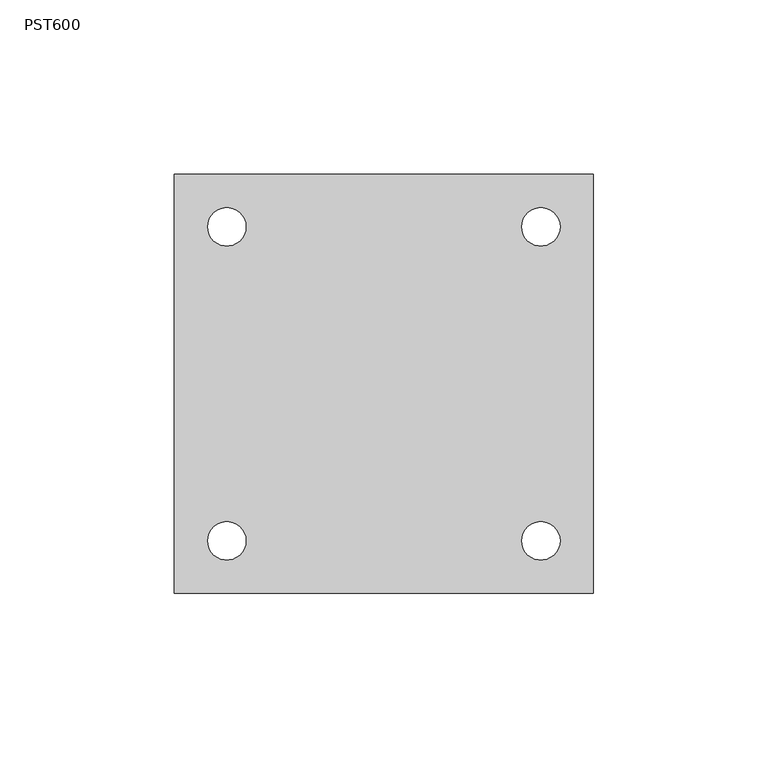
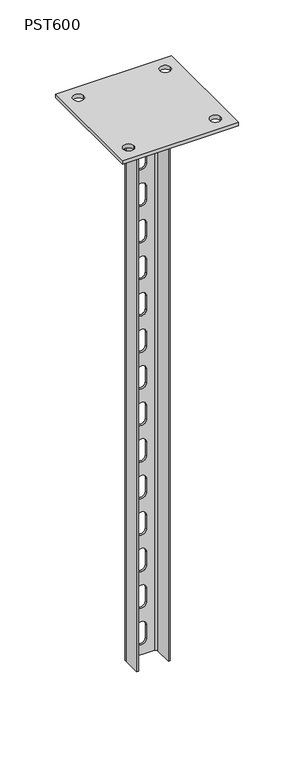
"""IFC4 building model written with IfcOpenShell, lengths in millimetres: proxy geometry, КМ Профиль_Стойка потолочная облегчённая PST : PST600."""

from ifc_helpers import new_model, si_unit, point, frame, frame_2d, origin, place, context, project, spatial, polyline, circle_curve, trimmed, segment, composite_curve, outline, extrude, source, transform, mapped, element, save
from ifc_brep_helpers import plane_surface, cylinder_surface, revolved_surface, advanced_brep


def pst600_b876f94e(model_context):
    return source(origin(), model_context, "Body", "SolidModel", [
        advanced_brep(
        [(17.5, -11.5, -4.0), (17.5, 7.5, -4.0), (13.5, 11.5, -4.0), (-13.5, 11.5, -4.0), (-17.5, 7.5, -4.0), (-17.5, -11.5, -4.0), (-15.5, -11.5, -4.0), (-15.5, 7.5, -4.0), (-13.5, 9.5, -4.0), (13.5, 9.5, -4.0), (15.5, 7.5, -4.0), (15.5, -11.5, -4.0), (17.5, 7.5, -604.0), (17.5, -11.5, -604.0), (15.5, -11.5, -604.0), (15.5, 7.5, -604.0), (13.5, 9.5, -604.0), (-13.5, 9.5, -604.0), (-15.5, 7.5, -604.0), (-15.5, -11.5, -604.0), (-17.5, -11.5, -604.0), (-17.5, 7.5, -604.0), (-13.5, 11.5, -604.0), (13.5, 11.5, -604.0), (-5.0, 11.5, -53.0), (-5.0, 11.5, -68.0), (5.0, 11.5, -68.0), (5.0, 11.5, -53.0), (-5.0, 11.5, -93.0), (-5.0, 11.5, -108.0), (5.0, 11.5, -108.0), (5.0, 11.5, -93.0), (-5.0, 11.5, -133.0), (-5.0, 11.5, -148.0), (5.0, 11.5, -148.0), (5.0, 11.5, -133.0), (-5.0, 11.5, -173.0), (-5.0, 11.5, -188.0), (5.0, 11.5, -188.0), (5.0, 11.5, -173.0), (-5.0, 11.5, -213.0), (-5.0, 11.5, -228.0), (5.0, 11.5, -228.0), (5.0, 11.5, -213.0), (-5.0, 11.5, -13.0), (-5.0, 11.5, -28.0), (5.0, 11.5, -28.0), (5.0, 11.5, -13.0), (-5.0, 11.5, -253.0), (-5.0, 11.5, -268.0), (5.0, 11.5, -268.0), (5.0, 11.5, -253.0), (-5.0, 11.5, -293.0), (-5.0, 11.5, -308.0), (5.0, 11.5, -308.0), (5.0, 11.5, -293.0), (-5.0, 11.5, -333.0), (-5.0, 11.5, -348.0), (5.0, 11.5, -348.0), (5.0, 11.5, -333.0), (-5.0, 11.5, -373.0), (-5.0, 11.5, -388.0), (5.0, 11.5, -388.0), (5.0, 11.5, -373.0), (-5.0, 11.5, -413.0), (-5.0, 11.5, -428.0), (5.0, 11.5, -428.0), (5.0, 11.5, -413.0), (-5.0, 11.5, -453.0), (-5.0, 11.5, -468.0), (5.0, 11.5, -468.0), (5.0, 11.5, -453.0), (-5.0, 11.5, -493.0), (-5.0, 11.5, -508.0), (5.0, 11.5, -508.0), (5.0, 11.5, -493.0), (-5.0, 11.5, -533.0), (-5.0, 11.5, -548.0), (5.0, 11.5, -548.0), (5.0, 11.5, -533.0), (-5.0, 11.5, -573.0), (-5.0, 11.5, -588.0), (5.0, 11.5, -588.0), (5.0, 11.5, -573.0), (-5.0, 9.5, -68.0), (-5.0, 9.5, -53.0), (5.0, 9.5, -53.0), (5.0, 9.5, -68.0), (-5.0, 9.5, -108.0), (-5.0, 9.5, -93.0), (5.0, 9.5, -93.0), (5.0, 9.5, -108.0), (-5.0, 9.5, -148.0), (-5.0, 9.5, -133.0), (5.0, 9.5, -133.0), (5.0, 9.5, -148.0), (-5.0, 9.5, -188.0), (-5.0, 9.5, -173.0), (5.0, 9.5, -173.0), (5.0, 9.5, -188.0), (-5.0, 9.5, -228.0), (-5.0, 9.5, -213.0), (5.0, 9.5, -213.0), (5.0, 9.5, -228.0), (-5.0, 9.5, -28.0), (-5.0, 9.5, -13.0), (5.0, 9.5, -13.0), (5.0, 9.5, -28.0), (-5.0, 9.5, -268.0), (-5.0, 9.5, -253.0), (5.0, 9.5, -253.0), (5.0, 9.5, -268.0), (-5.0, 9.5, -308.0), (-5.0, 9.5, -293.0), (5.0, 9.5, -293.0), (5.0, 9.5, -308.0), (-5.0, 9.5, -348.0), (-5.0, 9.5, -333.0), (5.0, 9.5, -333.0), (5.0, 9.5, -348.0), (-5.0, 9.5, -388.0), (-5.0, 9.5, -373.0), (5.0, 9.5, -373.0), (5.0, 9.5, -388.0), (-5.0, 9.5, -428.0), (-5.0, 9.5, -413.0), (5.0, 9.5, -413.0), (5.0, 9.5, -428.0), (-5.0, 9.5, -468.0), (-5.0, 9.5, -453.0), (5.0, 9.5, -453.0), (5.0, 9.5, -468.0), (-5.0, 9.5, -508.0), (-5.0, 9.5, -493.0), (5.0, 9.5, -493.0), (5.0, 9.5, -508.0), (-5.0, 9.5, -548.0), (-5.0, 9.5, -533.0), (5.0, 9.5, -533.0), (5.0, 9.5, -548.0), (-5.0, 9.5, -588.0), (-5.0, 9.5, -573.0), (5.0, 9.5, -573.0), (5.0, 9.5, -588.0)],
        [
            (0, 1),
            (1, 2, circle_curve(frame((13.5, 7.5, -4.0), z_axis=(0.0, 0.0, 1.0), x_axis=(1.0, 0.0, 0.0)), 4.0)),
            (2, 3),
            (3, 4, circle_curve(frame((-13.5, 7.5, -4.0), z_axis=(0.0, 0.0, 1.0), x_axis=(1.0, 0.0, 0.0)), 4.0)),
            (4, 5),
            (5, 6),
            (6, 7),
            (7, 8, circle_curve(frame((-13.5, 7.5, -4.0), z_axis=(0.0, 0.0, -1.0), x_axis=(1.0, 0.0, 0.0)), 2.0)),
            (8, 9),
            (9, 10, circle_curve(frame((13.5, 7.5, -4.0), z_axis=(0.0, 0.0, -1.0), x_axis=(1.0, 0.0, 0.0)), 2.0)),
            (10, 11),
            (11, 0),
            (12, 13),
            (13, 14),
            (14, 15),
            (15, 16, circle_curve(frame((13.5, 7.5, -604.0), z_axis=(0.0, 0.0, 1.0), x_axis=(1.0, 0.0, 0.0)), 2.0)),
            (16, 17),
            (17, 18, circle_curve(frame((-13.5, 7.5, -604.0), z_axis=(0.0, 0.0, 1.0), x_axis=(1.0, 0.0, 0.0)), 2.0)),
            (18, 19),
            (19, 20),
            (20, 21),
            (21, 22, circle_curve(frame((-13.5, 7.5, -604.0), z_axis=(0.0, 0.0, -1.0), x_axis=(1.0, 0.0, 0.0)), 4.0)),
            (22, 23),
            (23, 12, circle_curve(frame((13.5, 7.5, -604.0), z_axis=(0.0, 0.0, -1.0), x_axis=(1.0, 0.0, 0.0)), 4.0)),
            (0, 13),
            (12, 1),
            (23, 2),
            (22, 3),
            (24, 25),
            (25, 26, circle_curve(frame((0.0, 11.5, -68.0), z_axis=(0.0, -1.0, 0.0), x_axis=(0.0, 0.0, -1.0)), 5.0)),
            (26, 27),
            (27, 24, circle_curve(frame((0.0, 11.5, -53.0), z_axis=(0.0, -1.0, 0.0), x_axis=(0.0, 0.0, -1.0)), 5.0)),
            (28, 29),
            (29, 30, circle_curve(frame((0.0, 11.5, -108.0), z_axis=(0.0, -1.0, 0.0), x_axis=(0.0, 0.0, -1.0)), 5.0)),
            (30, 31),
            (31, 28, circle_curve(frame((0.0, 11.5, -93.0), z_axis=(0.0, -1.0, 0.0), x_axis=(0.0, 0.0, -1.0)), 5.0)),
            (32, 33),
            (33, 34, circle_curve(frame((0.0, 11.5, -148.0), z_axis=(0.0, -1.0, 0.0), x_axis=(0.0, 0.0, -1.0)), 5.0)),
            (34, 35),
            (35, 32, circle_curve(frame((0.0, 11.5, -133.0), z_axis=(0.0, -1.0, 0.0), x_axis=(0.0, 0.0, -1.0)), 5.0)),
            (36, 37),
            (37, 38, circle_curve(frame((0.0, 11.5, -188.0), z_axis=(0.0, -1.0, 0.0), x_axis=(0.0, 0.0, -1.0)), 5.0)),
            (38, 39),
            (39, 36, circle_curve(frame((0.0, 11.5, -173.0), z_axis=(0.0, -1.0, 0.0), x_axis=(0.0, 0.0, -1.0)), 5.0)),
            (40, 41),
            (41, 42, circle_curve(frame((0.0, 11.5, -228.0), z_axis=(0.0, -1.0, 0.0), x_axis=(0.0, 0.0, -1.0)), 5.0)),
            (42, 43),
            (43, 40, circle_curve(frame((0.0, 11.5, -213.0), z_axis=(0.0, -1.0, 0.0), x_axis=(0.0, 0.0, -1.0)), 5.0)),
            (44, 45),
            (45, 46, circle_curve(frame((0.0, 11.5, -28.0), z_axis=(0.0, -1.0, 0.0), x_axis=(0.0, 0.0, -1.0)), 5.0)),
            (46, 47),
            (47, 44, circle_curve(frame((0.0, 11.5, -13.0), z_axis=(0.0, -1.0, 0.0), x_axis=(0.0, 0.0, -1.0)), 5.0)),
            (48, 49),
            (49, 50, circle_curve(frame((0.0, 11.5, -268.0), z_axis=(0.0, -1.0, 0.0), x_axis=(0.0, 0.0, -1.0)), 5.0)),
            (50, 51),
            (51, 48, circle_curve(frame((0.0, 11.5, -253.0), z_axis=(0.0, -1.0, 0.0), x_axis=(0.0, 0.0, -1.0)), 5.0)),
            (52, 53),
            (53, 54, circle_curve(frame((0.0, 11.5, -308.0), z_axis=(0.0, -1.0, 0.0), x_axis=(0.0, 0.0, -1.0)), 5.0)),
            (54, 55),
            (55, 52, circle_curve(frame((0.0, 11.5, -293.0), z_axis=(0.0, -1.0, 0.0), x_axis=(0.0, 0.0, -1.0)), 5.0)),
            (56, 57),
            (57, 58, circle_curve(frame((0.0, 11.5, -348.0), z_axis=(0.0, -1.0, 0.0), x_axis=(0.0, 0.0, -1.0)), 5.0)),
            (58, 59),
            (59, 56, circle_curve(frame((0.0, 11.5, -333.0), z_axis=(0.0, -1.0, 0.0), x_axis=(0.0, 0.0, -1.0)), 5.0)),
            (60, 61),
            (61, 62, circle_curve(frame((0.0, 11.5, -388.0), z_axis=(0.0, -1.0, 0.0), x_axis=(0.0, 0.0, -1.0)), 5.0)),
            (62, 63),
            (63, 60, circle_curve(frame((0.0, 11.5, -373.0), z_axis=(0.0, -1.0, 0.0), x_axis=(0.0, 0.0, -1.0)), 5.0)),
            (64, 65),
            (65, 66, circle_curve(frame((0.0, 11.5, -428.0), z_axis=(0.0, -1.0, 0.0), x_axis=(0.0, 0.0, -1.0)), 5.0)),
            (66, 67),
            (67, 64, circle_curve(frame((0.0, 11.5, -413.0), z_axis=(0.0, -1.0, 0.0), x_axis=(0.0, 0.0, -1.0)), 5.0)),
            (68, 69),
            (69, 70, circle_curve(frame((0.0, 11.5, -468.0), z_axis=(0.0, -1.0, 0.0), x_axis=(0.0, 0.0, -1.0)), 5.0)),
            (70, 71),
            (71, 68, circle_curve(frame((0.0, 11.5, -453.0), z_axis=(0.0, -1.0, 0.0), x_axis=(0.0, 0.0, -1.0)), 5.0)),
            (72, 73),
            (73, 74, circle_curve(frame((0.0, 11.5, -508.0), z_axis=(0.0, -1.0, 0.0), x_axis=(0.0, 0.0, -1.0)), 5.0)),
            (74, 75),
            (75, 72, circle_curve(frame((0.0, 11.5, -493.0), z_axis=(0.0, -1.0, 0.0), x_axis=(0.0, 0.0, -1.0)), 5.0)),
            (76, 77),
            (77, 78, circle_curve(frame((0.0, 11.5, -548.0), z_axis=(0.0, -1.0, 0.0), x_axis=(0.0, 0.0, -1.0)), 5.0)),
            (78, 79),
            (79, 76, circle_curve(frame((0.0, 11.5, -533.0), z_axis=(0.0, -1.0, 0.0), x_axis=(0.0, 0.0, -1.0)), 5.0)),
            (80, 81),
            (81, 82, circle_curve(frame((0.0, 11.5, -588.0), z_axis=(0.0, -1.0, 0.0), x_axis=(0.0, 0.0, -1.0)), 5.0)),
            (82, 83),
            (83, 80, circle_curve(frame((0.0, 11.5, -573.0), z_axis=(0.0, -1.0, 0.0), x_axis=(0.0, 0.0, -1.0)), 5.0)),
            (21, 4),
            (20, 5),
            (19, 6),
            (18, 7),
            (17, 8),
            (16, 9),
            (84, 85),
            (85, 86, circle_curve(frame((0.0, 9.5, -53.0), z_axis=(0.0, 1.0, 0.0), x_axis=(0.0, 0.0, -1.0)), 5.0)),
            (86, 87),
            (87, 84, circle_curve(frame((0.0, 9.5, -68.0), z_axis=(0.0, 1.0, 0.0), x_axis=(0.0, 0.0, -1.0)), 5.0)),
            (88, 89),
            (89, 90, circle_curve(frame((0.0, 9.5, -93.0), z_axis=(0.0, 1.0, 0.0), x_axis=(0.0, 0.0, -1.0)), 5.0)),
            (90, 91),
            (91, 88, circle_curve(frame((0.0, 9.5, -108.0), z_axis=(0.0, 1.0, 0.0), x_axis=(0.0, 0.0, -1.0)), 5.0)),
            (92, 93),
            (93, 94, circle_curve(frame((0.0, 9.5, -133.0), z_axis=(0.0, 1.0, 0.0), x_axis=(0.0, 0.0, -1.0)), 5.0)),
            (94, 95),
            (95, 92, circle_curve(frame((0.0, 9.5, -148.0), z_axis=(0.0, 1.0, 0.0), x_axis=(0.0, 0.0, -1.0)), 5.0)),
            (96, 97),
            (97, 98, circle_curve(frame((0.0, 9.5, -173.0), z_axis=(0.0, 1.0, 0.0), x_axis=(0.0, 0.0, -1.0)), 5.0)),
            (98, 99),
            (99, 96, circle_curve(frame((0.0, 9.5, -188.0), z_axis=(0.0, 1.0, 0.0), x_axis=(0.0, 0.0, -1.0)), 5.0)),
            (100, 101),
            (101, 102, circle_curve(frame((0.0, 9.5, -213.0), z_axis=(0.0, 1.0, 0.0), x_axis=(0.0, 0.0, -1.0)), 5.0)),
            (102, 103),
            (103, 100, circle_curve(frame((0.0, 9.5, -228.0), z_axis=(0.0, 1.0, 0.0), x_axis=(0.0, 0.0, -1.0)), 5.0)),
            (104, 105),
            (105, 106, circle_curve(frame((0.0, 9.5, -13.0), z_axis=(0.0, 1.0, 0.0), x_axis=(0.0, 0.0, -1.0)), 5.0)),
            (106, 107),
            (107, 104, circle_curve(frame((0.0, 9.5, -28.0), z_axis=(0.0, 1.0, 0.0), x_axis=(0.0, 0.0, -1.0)), 5.0)),
            (108, 109),
            (109, 110, circle_curve(frame((0.0, 9.5, -253.0), z_axis=(0.0, 1.0, 0.0), x_axis=(0.0, 0.0, -1.0)), 5.0)),
            (110, 111),
            (111, 108, circle_curve(frame((0.0, 9.5, -268.0), z_axis=(0.0, 1.0, 0.0), x_axis=(0.0, 0.0, -1.0)), 5.0)),
            (112, 113),
            (113, 114, circle_curve(frame((0.0, 9.5, -293.0), z_axis=(0.0, 1.0, 0.0), x_axis=(0.0, 0.0, -1.0)), 5.0)),
            (114, 115),
            (115, 112, circle_curve(frame((0.0, 9.5, -308.0), z_axis=(0.0, 1.0, 0.0), x_axis=(0.0, 0.0, -1.0)), 5.0)),
            (116, 117),
            (117, 118, circle_curve(frame((0.0, 9.5, -333.0), z_axis=(0.0, 1.0, 0.0), x_axis=(0.0, 0.0, -1.0)), 5.0)),
            (118, 119),
            (119, 116, circle_curve(frame((0.0, 9.5, -348.0), z_axis=(0.0, 1.0, 0.0), x_axis=(0.0, 0.0, -1.0)), 5.0)),
            (120, 121),
            (121, 122, circle_curve(frame((0.0, 9.5, -373.0), z_axis=(0.0, 1.0, 0.0), x_axis=(0.0, 0.0, -1.0)), 5.0)),
            (122, 123),
            (123, 120, circle_curve(frame((0.0, 9.5, -388.0), z_axis=(0.0, 1.0, 0.0), x_axis=(0.0, 0.0, -1.0)), 5.0)),
            (124, 125),
            (125, 126, circle_curve(frame((0.0, 9.5, -413.0), z_axis=(0.0, 1.0, 0.0), x_axis=(0.0, 0.0, -1.0)), 5.0)),
            (126, 127),
            (127, 124, circle_curve(frame((0.0, 9.5, -428.0), z_axis=(0.0, 1.0, 0.0), x_axis=(0.0, 0.0, -1.0)), 5.0)),
            (128, 129),
            (129, 130, circle_curve(frame((0.0, 9.5, -453.0), z_axis=(0.0, 1.0, 0.0), x_axis=(0.0, 0.0, -1.0)), 5.0)),
            (130, 131),
            (131, 128, circle_curve(frame((0.0, 9.5, -468.0), z_axis=(0.0, 1.0, 0.0), x_axis=(0.0, 0.0, -1.0)), 5.0)),
            (132, 133),
            (133, 134, circle_curve(frame((0.0, 9.5, -493.0), z_axis=(0.0, 1.0, 0.0), x_axis=(0.0, 0.0, -1.0)), 5.0)),
            (134, 135),
            (135, 132, circle_curve(frame((0.0, 9.5, -508.0), z_axis=(0.0, 1.0, 0.0), x_axis=(0.0, 0.0, -1.0)), 5.0)),
            (136, 137),
            (137, 138, circle_curve(frame((0.0, 9.5, -533.0), z_axis=(0.0, 1.0, 0.0), x_axis=(0.0, 0.0, -1.0)), 5.0)),
            (138, 139),
            (139, 136, circle_curve(frame((0.0, 9.5, -548.0), z_axis=(0.0, 1.0, 0.0), x_axis=(0.0, 0.0, -1.0)), 5.0)),
            (140, 141),
            (141, 142, circle_curve(frame((0.0, 9.5, -573.0), z_axis=(0.0, 1.0, 0.0), x_axis=(0.0, 0.0, -1.0)), 5.0)),
            (142, 143),
            (143, 140, circle_curve(frame((0.0, 9.5, -588.0), z_axis=(0.0, 1.0, 0.0), x_axis=(0.0, 0.0, -1.0)), 5.0)),
            (15, 10),
            (14, 11),
            (24, 85),
            (84, 25),
            (27, 86),
            (26, 87),
            (28, 89),
            (88, 29),
            (31, 90),
            (30, 91),
            (32, 93),
            (92, 33),
            (35, 94),
            (34, 95),
            (36, 97),
            (96, 37),
            (39, 98),
            (38, 99),
            (40, 101),
            (100, 41),
            (43, 102),
            (42, 103),
            (44, 105),
            (104, 45),
            (47, 106),
            (46, 107),
            (48, 109),
            (108, 49),
            (51, 110),
            (50, 111),
            (52, 113),
            (112, 53),
            (55, 114),
            (54, 115),
            (56, 117),
            (116, 57),
            (59, 118),
            (58, 119),
            (60, 121),
            (120, 61),
            (63, 122),
            (62, 123),
            (64, 125),
            (124, 65),
            (67, 126),
            (66, 127),
            (68, 129),
            (128, 69),
            (71, 130),
            (70, 131),
            (72, 133),
            (132, 73),
            (75, 134),
            (74, 135),
            (76, 137),
            (136, 77),
            (79, 138),
            (78, 139),
            (80, 141),
            (140, 81),
            (83, 142),
            (82, 143),
        ],
        [
            plane_surface(frame((17.5, 70.8587358, -4.0), z_axis=(0.0, 0.0, 1.0), x_axis=(0.0, 1.0, 0.0))),
            plane_surface(frame((17.5, 70.8587358, -604.0), z_axis=(0.0, 0.0, -1.0), x_axis=(0.0, -1.0, 0.0))),
            plane_surface(frame((17.5, -11.5, -4.0), z_axis=(1.0, 0.0, 0.0), x_axis=(0.0, 0.0, -1.0))),
            cylinder_surface(frame((13.5, 7.5, -604.0), z_axis=(0.0, 0.0, 1.0), x_axis=(1.0, 0.0, 0.0)), 4.0),
            plane_surface(frame((13.5, 11.5, -4.0), z_axis=(0.0, 1.0, 0.0), x_axis=(0.0, 0.0, -1.0))),
            cylinder_surface(frame((-13.5, 7.5, -604.0), z_axis=(0.0, 0.0, 1.0), x_axis=(1.0, 0.0, 0.0)), 4.0),
            plane_surface(frame((-17.5, 7.5, -4.0), z_axis=(-1.0, 0.0, 0.0), x_axis=(0.0, 0.0, -1.0))),
            plane_surface(frame((-17.5, -11.5, -4.0), z_axis=(0.0, -1.0, 0.0), x_axis=(0.0, 0.0, -1.0))),
            plane_surface(frame((-15.5, -11.5, -4.0), z_axis=(1.0, 0.0, 0.0), x_axis=(0.0, 0.0, -1.0))),
            revolved_surface(polyline([(-11.5, 7.5, -604.0), (-11.5, 7.5, -4.0)]), (-13.5, 7.5, -604.0), (0.0, 0.0, -1.0)),
            plane_surface(frame((-13.5, 9.5, -4.0), z_axis=(0.0, -1.0, 0.0), x_axis=(0.0, 0.0, -1.0))),
            revolved_surface(polyline([(15.5, 7.5, -604.0), (15.5, 7.5, -4.0)]), (13.5, 7.5, -604.0), (0.0, 0.0, -1.0)),
            plane_surface(frame((15.5, 7.5, -4.0), z_axis=(-1.0, 0.0, 0.0), x_axis=(0.0, 0.0, -1.0))),
            plane_surface(frame((15.5, -11.5, -4.0), z_axis=(0.0, -1.0, 0.0), x_axis=(0.0, 0.0, -1.0))),
            plane_surface(frame((-5.0, 11.5, -68.0), z_axis=(1.0, 0.0, 0.0), x_axis=(0.0, -1.0, 0.0))),
            revolved_surface(polyline([(0.0, 11.5, -58.0), (0.0, 9.5, -58.0)]), (0.0, 9.5, -53.0), (0.0, 1.0, 0.0)),
            plane_surface(frame((5.0, 11.5, -53.0), z_axis=(-1.0, 0.0, 0.0), x_axis=(0.0, -1.0, 0.0))),
            revolved_surface(polyline([(0.0, 11.5, -73.0), (0.0, 9.5, -73.0)]), (0.0, 9.5, -68.0), (0.0, 1.0, 0.0)),
            plane_surface(frame((-5.0, 11.5, -108.0), z_axis=(1.0, 0.0, 0.0), x_axis=(0.0, -1.0, 0.0))),
            revolved_surface(polyline([(0.0, 11.5, -98.0), (0.0, 9.5, -98.0)]), (0.0, 9.5, -93.0), (0.0, 1.0, 0.0)),
            plane_surface(frame((5.0, 11.5, -93.0), z_axis=(-1.0, 0.0, 0.0), x_axis=(0.0, -1.0, 0.0))),
            revolved_surface(polyline([(0.0, 11.5, -113.0), (0.0, 9.5, -113.0)]), (0.0, 9.5, -108.0), (0.0, 1.0, 0.0)),
            plane_surface(frame((-5.0, 11.5, -148.0), z_axis=(1.0, 0.0, 0.0), x_axis=(0.0, -1.0, 0.0))),
            revolved_surface(polyline([(0.0, 11.5, -138.0), (0.0, 9.5, -138.0)]), (0.0, 9.5, -133.0), (0.0, 1.0, 0.0)),
            plane_surface(frame((5.0, 11.5, -133.0), z_axis=(-1.0, 0.0, 0.0), x_axis=(0.0, -1.0, 0.0))),
            revolved_surface(polyline([(0.0, 11.5, -153.0), (0.0, 9.5, -153.0)]), (0.0, 9.5, -148.0), (0.0, 1.0, 0.0)),
            plane_surface(frame((-5.0, 11.5, -188.0), z_axis=(1.0, 0.0, 0.0), x_axis=(0.0, -1.0, 0.0))),
            revolved_surface(polyline([(0.0, 11.5, -178.0), (0.0, 9.5, -178.0)]), (0.0, 9.5, -173.0), (0.0, 1.0, 0.0)),
            plane_surface(frame((5.0, 11.5, -173.0), z_axis=(-1.0, 0.0, 0.0), x_axis=(0.0, -1.0, 0.0))),
            revolved_surface(polyline([(0.0, 11.5, -193.0), (0.0, 9.5, -193.0)]), (0.0, 9.5, -188.0), (0.0, 1.0, 0.0)),
            plane_surface(frame((-5.0, 11.5, -228.0), z_axis=(1.0, 0.0, 0.0), x_axis=(0.0, -1.0, 0.0))),
            revolved_surface(polyline([(0.0, 11.5, -218.0), (0.0, 9.5, -218.0)]), (0.0, 9.5, -213.0), (0.0, 1.0, 0.0)),
            plane_surface(frame((5.0, 11.5, -213.0), z_axis=(-1.0, 0.0, 0.0), x_axis=(0.0, -1.0, 0.0))),
            revolved_surface(polyline([(0.0, 11.5, -233.0), (0.0, 9.5, -233.0)]), (0.0, 9.5, -228.0), (0.0, 1.0, 0.0)),
            plane_surface(frame((-5.0, 11.5, -28.0), z_axis=(1.0, 0.0, 0.0), x_axis=(0.0, -1.0, 0.0))),
            revolved_surface(polyline([(0.0, 11.5, -18.0), (0.0, 9.5, -18.0)]), (0.0, 9.5, -13.0), (0.0, 1.0, 0.0)),
            plane_surface(frame((5.0, 11.5, -13.0), z_axis=(-1.0, 0.0, 0.0), x_axis=(0.0, -1.0, 0.0))),
            revolved_surface(polyline([(0.0, 11.5, -33.0), (0.0, 9.5, -33.0)]), (0.0, 9.5, -28.0), (0.0, 1.0, 0.0)),
            plane_surface(frame((-5.0, 11.5, -268.0), z_axis=(1.0, 0.0, 0.0), x_axis=(0.0, -1.0, 0.0))),
            revolved_surface(polyline([(0.0, 11.5, -258.0), (0.0, 9.5, -258.0)]), (0.0, 9.5, -253.0), (0.0, 1.0, 0.0)),
            plane_surface(frame((5.0, 11.5, -253.0), z_axis=(-1.0, 0.0, 0.0), x_axis=(0.0, -1.0, 0.0))),
            revolved_surface(polyline([(0.0, 11.5, -273.0), (0.0, 9.5, -273.0)]), (0.0, 9.5, -268.0), (0.0, 1.0, 0.0)),
            plane_surface(frame((-5.0, 11.5, -308.0), z_axis=(1.0, 0.0, 0.0), x_axis=(0.0, -1.0, 0.0))),
            revolved_surface(polyline([(0.0, 11.5, -298.0), (0.0, 9.5, -298.0)]), (0.0, 9.5, -293.0), (0.0, 1.0, 0.0)),
            plane_surface(frame((5.0, 11.5, -293.0), z_axis=(-1.0, 0.0, 0.0), x_axis=(0.0, -1.0, 0.0))),
            revolved_surface(polyline([(0.0, 11.5, -313.0), (0.0, 9.5, -313.0)]), (0.0, 9.5, -308.0), (0.0, 1.0, 0.0)),
            plane_surface(frame((-5.0, 11.5, -348.0), z_axis=(1.0, 0.0, 0.0), x_axis=(0.0, -1.0, 0.0))),
            revolved_surface(polyline([(0.0, 11.5, -338.0), (0.0, 9.5, -338.0)]), (0.0, 9.5, -333.0), (0.0, 1.0, 0.0)),
            plane_surface(frame((5.0, 11.5, -333.0), z_axis=(-1.0, 0.0, 0.0), x_axis=(0.0, -1.0, 0.0))),
            revolved_surface(polyline([(0.0, 11.5, -353.0), (0.0, 9.5, -353.0)]), (0.0, 9.5, -348.0), (0.0, 1.0, 0.0)),
            plane_surface(frame((-5.0, 11.5, -388.0), z_axis=(1.0, 0.0, 0.0), x_axis=(0.0, -1.0, 0.0))),
            revolved_surface(polyline([(0.0, 11.5, -378.0), (0.0, 9.5, -378.0)]), (0.0, 9.5, -373.0), (0.0, 1.0, 0.0)),
            plane_surface(frame((5.0, 11.5, -373.0), z_axis=(-1.0, 0.0, 0.0), x_axis=(0.0, -1.0, 0.0))),
            revolved_surface(polyline([(0.0, 11.5, -393.0), (0.0, 9.5, -393.0)]), (0.0, 9.5, -388.0), (0.0, 1.0, 0.0)),
            plane_surface(frame((-5.0, 11.5, -428.0), z_axis=(1.0, 0.0, 0.0), x_axis=(0.0, -1.0, 0.0))),
            revolved_surface(polyline([(0.0, 11.5, -418.0), (0.0, 9.5, -418.0)]), (0.0, 9.5, -413.0), (0.0, 1.0, 0.0)),
            plane_surface(frame((5.0, 11.5, -413.0), z_axis=(-1.0, 0.0, 0.0), x_axis=(0.0, -1.0, 0.0))),
            revolved_surface(polyline([(0.0, 11.5, -433.0), (0.0, 9.5, -433.0)]), (0.0, 9.5, -428.0), (0.0, 1.0, 0.0)),
            plane_surface(frame((-5.0, 11.5, -468.0), z_axis=(1.0, 0.0, 0.0), x_axis=(0.0, -1.0, 0.0))),
            revolved_surface(polyline([(0.0, 11.5, -458.0), (0.0, 9.5, -458.0)]), (0.0, 9.5, -453.0), (0.0, 1.0, 0.0)),
            plane_surface(frame((5.0, 11.5, -453.0), z_axis=(-1.0, 0.0, 0.0), x_axis=(0.0, -1.0, 0.0))),
            revolved_surface(polyline([(0.0, 11.5, -473.0), (0.0, 9.5, -473.0)]), (0.0, 9.5, -468.0), (0.0, 1.0, 0.0)),
            plane_surface(frame((-5.0, 11.5, -508.0), z_axis=(1.0, 0.0, 0.0), x_axis=(0.0, -1.0, 0.0))),
            revolved_surface(polyline([(0.0, 11.5, -498.0), (0.0, 9.5, -498.0)]), (0.0, 9.5, -493.0), (0.0, 1.0, 0.0)),
            plane_surface(frame((5.0, 11.5, -493.0), z_axis=(-1.0, 0.0, 0.0), x_axis=(0.0, -1.0, 0.0))),
            revolved_surface(polyline([(0.0, 11.5, -513.0), (0.0, 9.5, -513.0)]), (0.0, 9.5, -508.0), (0.0, 1.0, 0.0)),
            plane_surface(frame((-5.0, 11.5, -548.0), z_axis=(1.0, 0.0, 0.0), x_axis=(0.0, -1.0, 0.0))),
            revolved_surface(polyline([(0.0, 11.5, -538.0), (0.0, 9.5, -538.0)]), (0.0, 9.5, -533.0), (0.0, 1.0, 0.0)),
            plane_surface(frame((5.0, 11.5, -533.0), z_axis=(-1.0, 0.0, 0.0), x_axis=(0.0, -1.0, 0.0))),
            revolved_surface(polyline([(0.0, 11.5, -553.0), (0.0, 9.5, -553.0)]), (0.0, 9.5, -548.0), (0.0, 1.0, 0.0)),
            plane_surface(frame((-5.0, 11.5, -588.0), z_axis=(1.0, 0.0, 0.0), x_axis=(0.0, -1.0, 0.0))),
            revolved_surface(polyline([(0.0, 11.5, -578.0), (0.0, 9.5, -578.0)]), (0.0, 9.5, -573.0), (0.0, 1.0, 0.0)),
            plane_surface(frame((5.0, 11.5, -573.0), z_axis=(-1.0, 0.0, 0.0), x_axis=(0.0, -1.0, 0.0))),
            revolved_surface(polyline([(0.0, 11.5, -593.0), (0.0, 9.5, -593.0)]), (0.0, 9.5, -588.0), (0.0, 1.0, 0.0)),
        ],
        [
            (0, [[1, 2, 3, 4, 5, 6, 7, 8, 9, 10, 11, 12]]),
            (1, [[13, 14, 15, 16, 17, 18, 19, 20, 21, 22, 23, 24]]),
            (2, [[-1, 25, -13, 26]]),
            (3, [[-2, -26, -24, 27]]),
            (4, [[-3, -27, -23, 28], [29, 30, 31, 32], [33, 34, 35, 36], [37, 38, 39, 40], [41, 42, 43, 44], [45, 46, 47, 48], [49, 50, 51, 52], [53, 54, 55, 56], [57, 58, 59, 60], [61, 62, 63, 64], [65, 66, 67, 68], [69, 70, 71, 72], [73, 74, 75, 76], [77, 78, 79, 80], [81, 82, 83, 84], [85, 86, 87, 88]]),
            (5, [[-4, -28, -22, 89]]),
            (6, [[-5, -89, -21, 90]]),
            (7, [[-6, -90, -20, 91]]),
            (8, [[-7, -91, -19, 92]]),
            (9, [[-8, -92, -18, 93]]),
            (10, [[-9, -93, -17, 94], [95, 96, 97, 98], [99, 100, 101, 102], [103, 104, 105, 106], [107, 108, 109, 110], [111, 112, 113, 114], [115, 116, 117, 118], [119, 120, 121, 122], [123, 124, 125, 126], [127, 128, 129, 130], [131, 132, 133, 134], [135, 136, 137, 138], [139, 140, 141, 142], [143, 144, 145, 146], [147, 148, 149, 150], [151, 152, 153, 154]]),
            (11, [[-10, -94, -16, 155]]),
            (12, [[-11, -155, -15, 156]]),
            (13, [[-12, -156, -14, -25]]),
            (14, [[157, -95, 158, -29]]),
            (15, [[-157, -32, 159, -96]]),
            (16, [[-159, -31, 160, -97]]),
            (17, [[-158, -98, -160, -30]]),
            (18, [[161, -99, 162, -33]]),
            (19, [[-161, -36, 163, -100]]),
            (20, [[-163, -35, 164, -101]]),
            (21, [[-162, -102, -164, -34]]),
            (22, [[165, -103, 166, -37]]),
            (23, [[-165, -40, 167, -104]]),
            (24, [[-167, -39, 168, -105]]),
            (25, [[-166, -106, -168, -38]]),
            (26, [[169, -107, 170, -41]]),
            (27, [[-169, -44, 171, -108]]),
            (28, [[-171, -43, 172, -109]]),
            (29, [[-170, -110, -172, -42]]),
            (30, [[173, -111, 174, -45]]),
            (31, [[-173, -48, 175, -112]]),
            (32, [[-175, -47, 176, -113]]),
            (33, [[-174, -114, -176, -46]]),
            (34, [[177, -115, 178, -49]]),
            (35, [[-177, -52, 179, -116]]),
            (36, [[-179, -51, 180, -117]]),
            (37, [[-178, -118, -180, -50]]),
            (38, [[181, -119, 182, -53]]),
            (39, [[-181, -56, 183, -120]]),
            (40, [[-183, -55, 184, -121]]),
            (41, [[-182, -122, -184, -54]]),
            (42, [[185, -123, 186, -57]]),
            (43, [[-185, -60, 187, -124]]),
            (44, [[-187, -59, 188, -125]]),
            (45, [[-186, -126, -188, -58]]),
            (46, [[189, -127, 190, -61]]),
            (47, [[-189, -64, 191, -128]]),
            (48, [[-191, -63, 192, -129]]),
            (49, [[-190, -130, -192, -62]]),
            (50, [[193, -131, 194, -65]]),
            (51, [[-193, -68, 195, -132]]),
            (52, [[-195, -67, 196, -133]]),
            (53, [[-194, -134, -196, -66]]),
            (54, [[197, -135, 198, -69]]),
            (55, [[-197, -72, 199, -136]]),
            (56, [[-199, -71, 200, -137]]),
            (57, [[-198, -138, -200, -70]]),
            (58, [[201, -139, 202, -73]]),
            (59, [[-201, -76, 203, -140]]),
            (60, [[-203, -75, 204, -141]]),
            (61, [[-202, -142, -204, -74]]),
            (62, [[205, -143, 206, -77]]),
            (63, [[-205, -80, 207, -144]]),
            (64, [[-207, -79, 208, -145]]),
            (65, [[-206, -146, -208, -78]]),
            (66, [[209, -147, 210, -81]]),
            (67, [[-209, -84, 211, -148]]),
            (68, [[-211, -83, 212, -149]]),
            (69, [[-210, -150, -212, -82]]),
            (70, [[213, -151, 214, -85]]),
            (71, [[-213, -88, 215, -152]]),
            (72, [[-215, -87, 216, -153]]),
            (73, [[-214, -154, -216, -86]]),
        ],
    ),
        extrude(outline(polyline([(-60.0, 60.0), (60.0, 60.0), (60.0, -60.0), (-60.0, -60.0), (-60.0, 60.0)]), holes=[composite_curve([segment(trimmed(circle_curve(frame_2d((-45.0, 45.0)), 5.5), [point((-50.5, 45.0))], [point((-39.5, 45.0))], True, "CARTESIAN"), True, "CONTINUOUS"), segment(trimmed(circle_curve(frame_2d((-45.0, 45.0)), 5.5), [point((-39.5, 45.0))], [point((-50.5, 45.0))], True, "CARTESIAN"), True, "CONTINUOUS")], self_intersect=False), composite_curve([segment(trimmed(circle_curve(frame_2d((45.0, 45.0)), 5.5), [point((39.5, 45.0))], [point((50.5, 45.0))], True, "CARTESIAN"), True, "CONTINUOUS"), segment(trimmed(circle_curve(frame_2d((45.0, 45.0)), 5.5), [point((50.5, 45.0))], [point((39.5, 45.0))], True, "CARTESIAN"), True, "CONTINUOUS")], self_intersect=False), composite_curve([segment(trimmed(circle_curve(frame_2d((45.0, -45.0)), 5.5), [point((39.5, -45.0))], [point((50.5, -45.0))], True, "CARTESIAN"), True, "CONTINUOUS"), segment(trimmed(circle_curve(frame_2d((45.0, -45.0)), 5.5), [point((50.5, -45.0))], [point((39.5, -45.0))], True, "CARTESIAN"), True, "CONTINUOUS")], self_intersect=False), composite_curve([segment(trimmed(circle_curve(frame_2d((-45.0, -45.0)), 5.5), [point((-50.5, -45.0))], [point((-39.5, -45.0))], True, "CARTESIAN"), True, "CONTINUOUS"), segment(trimmed(circle_curve(frame_2d((-45.0, -45.0)), 5.5), [point((-39.5, -45.0))], [point((-50.5, -45.0))], True, "CARTESIAN"), True, "CONTINUOUS")], self_intersect=False)]), frame((0.0, 0.0, -4.0), z_axis=(0.0, 0.0, 1.0), x_axis=(1.0, 0.0, 0.0)), (0.0, 0.0, 1.0), 4.0),
    ])


if __name__ == "__main__":
    model = new_model("IFC4")
    model_context = context("Model", 3, world=origin())
    ifc_project = project(units=[si_unit("LENGTHUNIT", "METRE", prefix="MILLI")], contexts=[model_context])
    site = spatial("IfcSite", under=ifc_project)
    building = spatial("IfcBuilding", under=site)
    placement = place(None, origin())
    pst600_shape = pst600_b876f94e(model_context)
    element("IfcBuildingElementProxy", 1, Name="КМ Профиль_Стойка потолочная облегчённая PST : PST600", ObjectType="КМ Профиль_Стойка потолочная облегчённая PST : PST600", at=placement, inside=building, context=model_context, shape_type="MappedRepresentation", body=[
        mapped(pst600_shape, transform((0.0, 0.0, 0.0), x_axis=(1.0, 0.0, 0.0), y_axis=(0.0, 1.0, 0.0), z_axis=(0.0, 0.0, 1.0))),
    ])
    save(model, "model.ifc")
